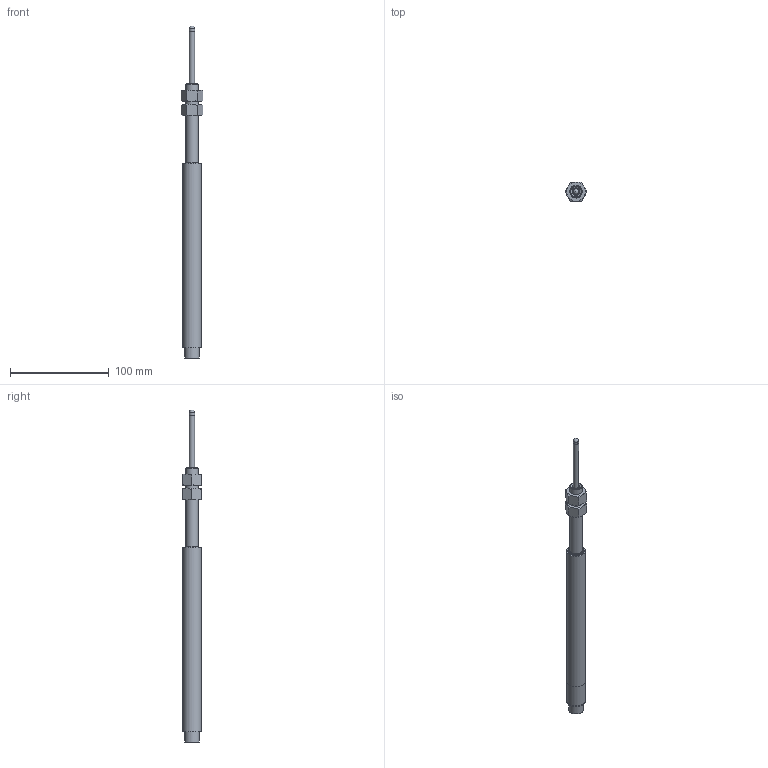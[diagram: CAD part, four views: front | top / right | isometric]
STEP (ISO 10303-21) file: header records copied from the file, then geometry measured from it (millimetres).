
FILE_DESCRIPTION(/* description */ (''),/* implementation_level */ '2;1');
FILE_NAME(/* name */ 'F:\GH SERIES\GH-750-A-XXXX\GH-750-A-1000\GH-750-A-1000 ASS''Y.iam.stp',/* time_stamp */ '2021-11-17T12:39:27-05:00',/* author */ ('Justin'),/* organization */ ('TSC'),/* preprocessor_version */ 'ST-DEVELOPER v18.1',/* originating_system */ 'Autodesk Inventor 2022',/* authorisation */ '');
FILE_SCHEMA (('AUTOMOTIVE_DESIGN { 1 0 10303 214 3 1 1 }'));
Length unit declared in the file: inch
Products named in the file (4): 2019-007; GH-750-A-1000 HOUSING_SW; GH-750-A-1000 SHAFT_SW; AS 2465 - 1/2  UNF
Assembly tree (4 placements, depth 2):
  2019-007
    GH-750-A-1000 HOUSING_SW
    GH-750-A-1000 SHAFT_SW
    AS 2465 - 1/2  UNF  x2
Bounding box: 22 x 19.05 x 335.69 mm (x, y, z)
Volume: 33171 mm3; surface area: 35457.8 mm2
Topology: 12 solids, 12 shells, 172 faces, 343 edges, 216 vertices
Faces by surface type: plane 69, cylinder 53, cone 43, torus 4, bspline 2, sphere 1
Full cylindrical faces by diameter (mm): 0.762 x12, 2.845 x3, 4.826 x2, 5.334 x4, 5.397 x1, 7.671 x2, 7.874 x1, 11.328 x2, 12.7 x1, 13.208 x1, 14.986 x1, 15.748 x2, 16.51 x1, 17.069 x1, 18.034 x1, 18.415 x3, 19.05 x1
Entity records: 4461 total; most frequent: CARTESIAN_POINT 957, DIRECTION 733, ORIENTED_EDGE 582, AXIS2_PLACEMENT_3D 311, EDGE_CURVE 291, VERTEX_POINT 187, EDGE_LOOP 186, CIRCLE 156
